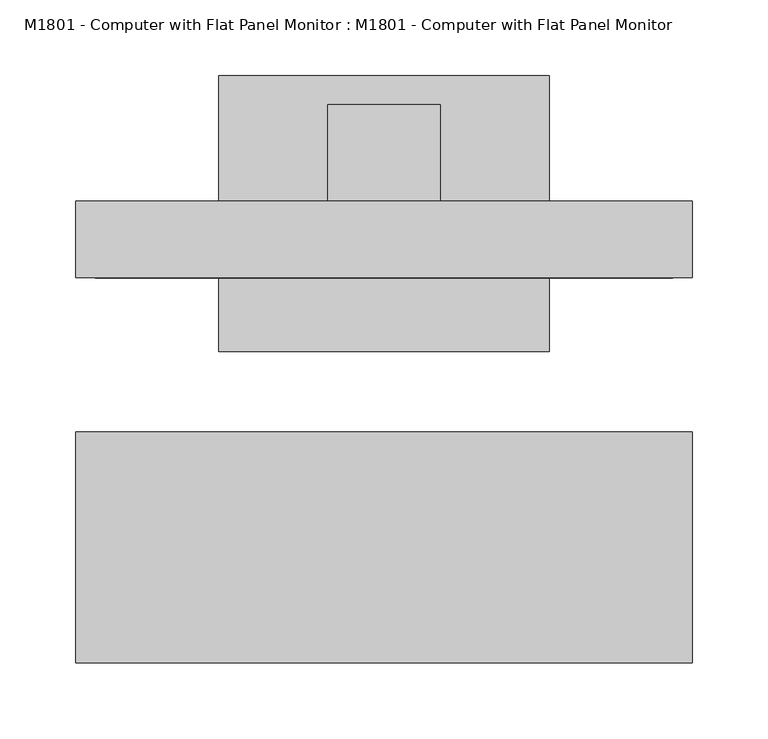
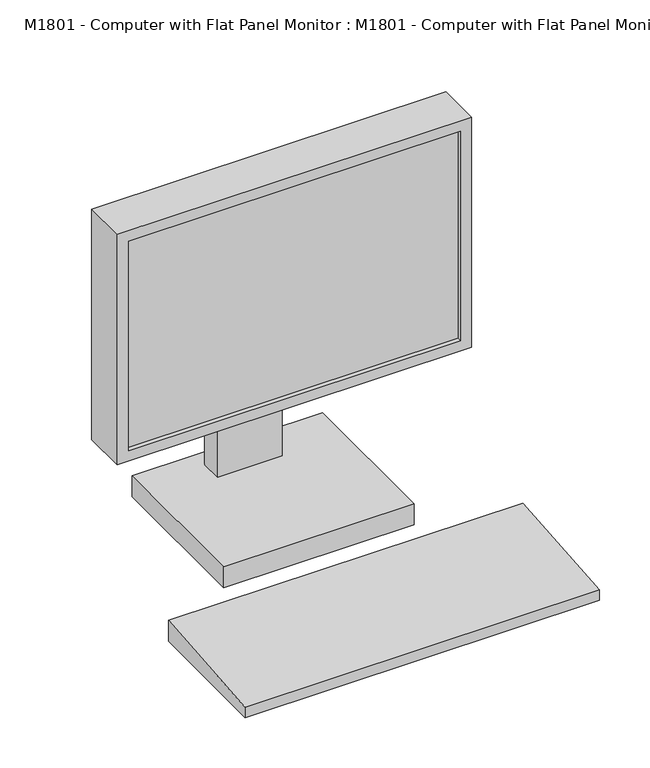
"""IFC4 building model written with IfcOpenShell, lengths in millimetres: proxy geometry, M1801 - Computer with Flat Panel Monitor : M1801 - Computer with Flat Panel Monitor."""

from ifc_helpers import new_model, si_unit, frame, origin, place, context, project, spatial, polyline, outline, extrude, faceted_brep, source, transform, mapped, element, save


def m1801_computer_with_flat_panel_monitor_m1801_computer_with_63adc1fb(model_context):
    return source(origin(), model_context, "Body", "SolidModel", [
        extrude(outline(polyline([(-171.45, 0.0), (-171.45, 12.7), (-19.05, 25.4), (-19.05, 0.0), (-171.45, 0.0)])), frame((-203.2, 0.0, 0.0), z_axis=(1.0, 0.0, 0.0), x_axis=(0.0, 1.0, 0.0)), (0.0, 0.0, 1.0), 406.4),
        faceted_brep([(203.2, 133.2656905, 431.8), (-203.2, 133.2656905, 431.8), (-203.2, 82.6343095, 431.8), (203.2, 82.6343095, 431.8), (203.2, 133.2656905, 152.4), (203.2, 82.6343095, 152.4), (-203.2, 82.6343095, 152.4), (-203.2, 133.2656905, 152.4), (-190.5, 82.6343095, 419.1), (190.5, 82.6343095, 419.1), (190.5, 82.6343095, 165.1), (-190.5, 82.6343095, 165.1), (190.5, 87.4205119, 419.1), (-190.5, 87.4205119, 419.1), (190.5, 87.4205119, 165.1), (-190.5, 87.4205119, 165.1)], [[[0, 1, 2, 3]], [[4, 5, 6, 7]], [[1, 0, 4, 7]], [[2, 1, 7, 6]], [[3, 2, 6, 5], [8, 9, 10, 11]], [[0, 3, 5, 4]], [[12, 9, 8, 13]], [[14, 15, 11, 10]], [[12, 13, 15, 14]], [[13, 8, 11, 15]], [[9, 12, 14, 10]]]),
        faceted_brep([(109.1218395, 34.0676261, 25.4), (109.1218395, 34.0676261, 0.0), (109.1218395, 215.9, 0.0), (109.1218395, 215.9, 25.4), (-109.1218395, 215.9, 25.4), (-109.1218395, 215.9, 0.0), (-109.1218395, 34.0676261, 0.0), (-109.1218395, 34.0676261, 25.4), (36.9685686, 196.7656905, 31.75), (36.9685686, 196.7656905, 25.4), (-36.9685686, 196.7656905, 25.4), (-36.9685686, 196.7656905, 31.75), (36.9685686, 196.7656905, 292.1), (-36.9685686, 196.7656905, 292.1), (36.9685686, 133.2656905, 292.1), (-36.9685686, 133.2656905, 292.1), (36.9685686, 133.2656905, 241.3), (-36.9685686, 133.2656905, 241.3), (36.9685686, 171.3656905, 241.3), (-36.9685686, 171.3656905, 241.3), (36.9685686, 171.3656905, 25.4), (-36.9685686, 171.3656905, 25.4)], [[[0, 1, 2, 3]], [[4, 5, 6, 7]], [[8, 9, 10, 11]], [[12, 8, 11, 13]], [[14, 12, 13, 15]], [[16, 14, 15, 17]], [[18, 16, 17, 19]], [[20, 18, 19, 21]], [[0, 3, 4, 7], [9, 20, 21, 10]], [[1, 0, 7, 6]], [[2, 1, 6, 5]], [[3, 2, 5, 4]], [[20, 9, 8, 12, 14, 16, 18]], [[10, 21, 19, 17, 15, 13, 11]]]),
    ])


if __name__ == "__main__":
    model = new_model("IFC4")
    model_context = context("Model", 3, world=origin())
    ifc_project = project(units=[si_unit("LENGTHUNIT", "METRE", prefix="MILLI")], contexts=[model_context])
    site = spatial("IfcSite", under=ifc_project)
    building = spatial("IfcBuilding", under=site)
    placement = place(None, origin())
    m1801_computer_with_flat_panel_monitor_m1801_computer_with_shape = m1801_computer_with_flat_panel_monitor_m1801_computer_with_63adc1fb(model_context)
    element("IfcBuildingElementProxy", 1, Name="M1801 - Computer with Flat Panel Monitor : M1801 - Computer with Flat Panel Monitor", ObjectType="M1801 - Computer with Flat Panel Monitor : M1801 - Computer with Flat Panel Monitor", at=placement, inside=building, context=model_context, shape_type="MappedRepresentation", body=[
        mapped(m1801_computer_with_flat_panel_monitor_m1801_computer_with_shape, transform((0.0, 0.0, 0.0), x_axis=(1.0, 0.0, 0.0), y_axis=(0.0, 1.0, 0.0), z_axis=(0.0, 0.0, 1.0))),
    ])
    save(model, "model.ifc")
